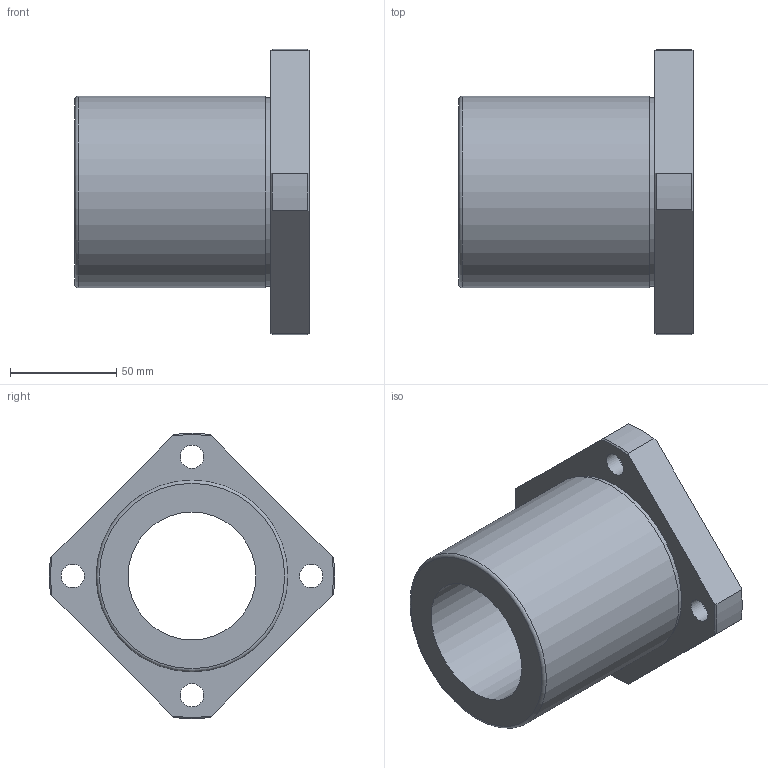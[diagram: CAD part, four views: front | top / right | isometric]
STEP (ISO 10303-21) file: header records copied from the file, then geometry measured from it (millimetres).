
FILE_DESCRIPTION(('STEP AP203'),'1');
FILE_NAME('//192.168.1.1/share/s-4 技術開発/s-4-4_CAD/s-4-4-3_見直し済み/002 修正済み/NF-V/NF-60VUU.step','2022-03-08T06:38:51',(' '),(' '),'Spatial InterOp 3D',' ',' ');
FILE_SCHEMA(('CONFIG_CONTROL_DESIGN'));
Length unit declared in the file: millimetre
Products named in the file (1): 1
Bounding box: 110 x 133.88 x 133.88 mm (x, y, z)
Volume: 457941.4 mm3; surface area: 72949.1 mm2
Topology: 1 solids, 1 shells, 36 faces, 89 edges, 61 vertices
Faces by surface type: cylinder 15, plane 12, cone 8, torus 1
Full cylindrical faces by diameter (mm): 11 x4, 17.5 x4, 60 x1, 88.5 x1, 90 x1
Entity records: 1026 total; most frequent: CARTESIAN_POINT 195, DIRECTION 168, ORIENTED_EDGE 142, AXIS2_PLACEMENT_3D 76, EDGE_CURVE 71, EDGE_LOOP 64, VERTEX_POINT 55, FACE_OUTER_BOUND 48
